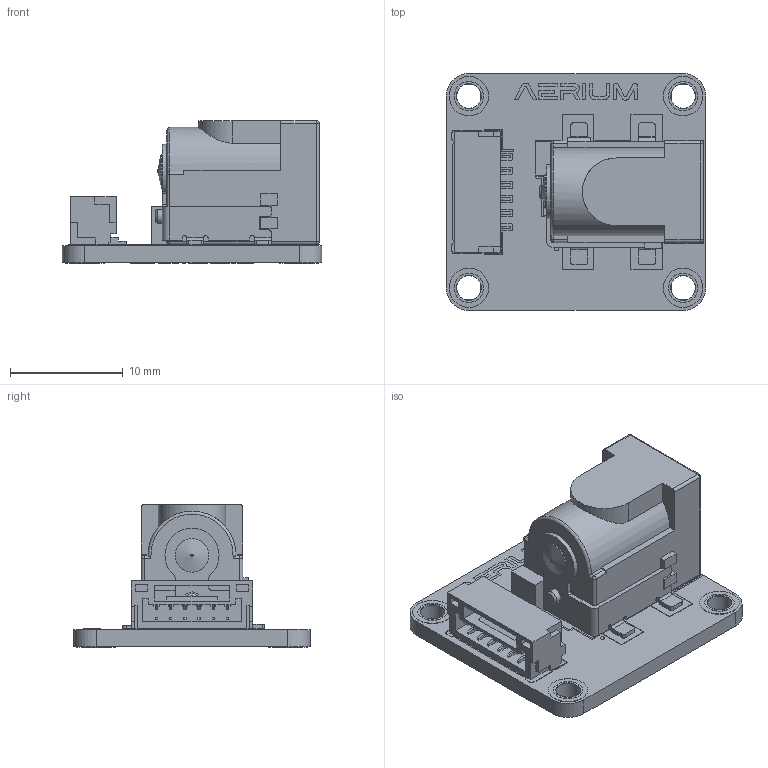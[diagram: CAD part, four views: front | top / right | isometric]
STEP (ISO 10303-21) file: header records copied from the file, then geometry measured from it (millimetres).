
FILE_DESCRIPTION(/* description */ ('KiCad electronic assembly'),/* implementation_level */ '2;1');
FILE_NAME(/* name */ 'Aerium_Barrel_3D_Model.step',/* time_stamp */ '2026-09-20T16:09:43+03:00',/* author */ (''),/* organization */ (''),/* preprocessor_version */ 'ST-DEVELOPER v20.1',/* originating_system */ 'Autodesk Translation Framework v15.8.0.0',/* authorisation */ '');
FILE_SCHEMA (('AUTOMOTIVE_DESIGN { 1 0 10303 214 3 1 1 }'));
Length unit declared in the file: millimetre
Products named in the file (7): 2026-09-20-13-02-47-060; 2026-09-20-13-02-47-061; 2026-09-20-13-02-47-062; 2026-09-20-13-02-47-063; 2026-09-20-13-02-47-064; 2026-09-20-13-02-47-065; 2026-09-20-13-02-47-066
Assembly tree (6 placements, depth 2):
  2026-09-20-13-02-47-060
    2026-09-20-13-02-47-061
    2026-09-20-13-02-47-062
    2026-09-20-13-02-47-063
    2026-09-20-13-02-47-064
    2026-09-20-13-02-47-065
    2026-09-20-13-02-47-066
Bounding box: 23 x 21 x 12.67 mm (x, y, z)
Volume: 1603.4 mm3; surface area: 3374.2 mm2
Topology: 35 solids, 60 shells, 820 faces, 2525 edges, 1796 vertices
Faces by surface type: plane 595, cylinder 189, sphere 14, bspline 12, torus 9, cone 1
Full cylindrical faces by diameter (mm): 1.2 x1, 1.3 x1, 1.5 x2, 1.7 x1, 1.8 x1, 2 x3, 2.05 x2, 2.15 x20, 2.2 x8, 2.6 x8, 3 x5, 3.05 x1, 3.5 x8, 6.5 x1
Entity records: 30008 total; most frequent: CARTESIAN_POINT 6602, DIRECTION 4557, ORIENTED_EDGE 4550, EDGE_CURVE 2512, LINE 2035, VECTOR 2035, VERTEX_POINT 1796, AXIS2_PLACEMENT_3D 1261
